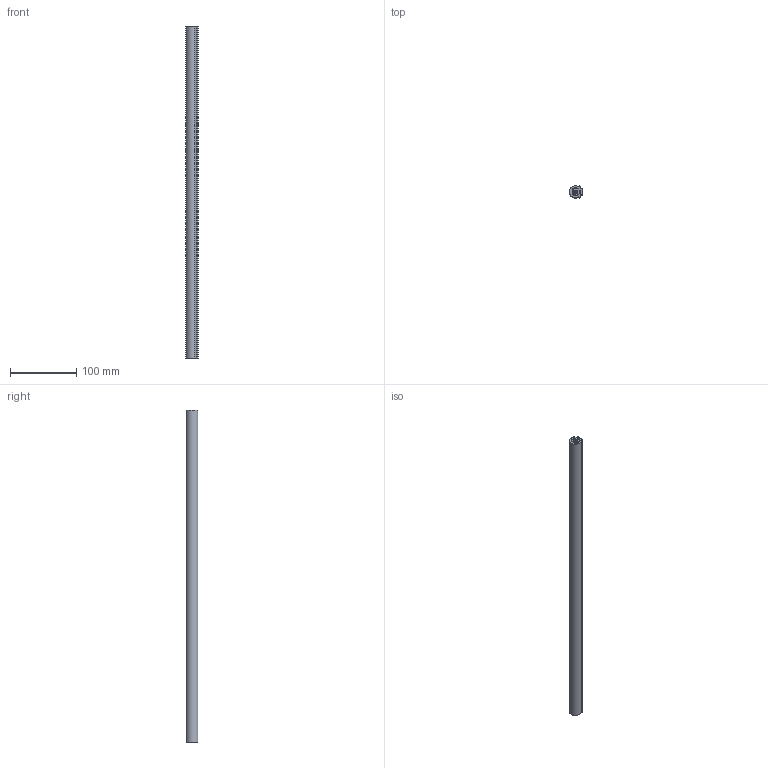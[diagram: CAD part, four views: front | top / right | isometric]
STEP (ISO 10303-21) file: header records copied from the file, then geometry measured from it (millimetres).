
FILE_DESCRIPTION((''),'2;1');
FILE_NAME('X:\Ritarkiv\STEP-Carryline Standarddelar\300-3010.stp','2009-05-11T13:37:01',('marcus'),(''),'Autodesk Inventor 2009','Autodesk Inventor 2009','');
FILE_SCHEMA(('AUTOMOTIVE_DESIGN { 1 0 10303 214 1 1 1 1 }'));
Length unit declared in the file: millimetre
Products named in the file (2): Assembly1; 300-3010-01
Assembly tree (1 placements, depth 2):
  Assembly1
    300-3010-01
Bounding box: 19.3 x 18 x 500 mm (x, y, z)
Volume: 117591.5 mm3; surface area: 88432.5 mm2
Topology: 1 solids, 1 shells, 68 faces, 198 edges, 118 vertices
Faces by surface type: plane 43, cylinder 25
Entity records: 2280 total; most frequent: ORIENTED_EDGE 396, DIRECTION 390, CARTESIAN_POINT 387, EDGE_CURVE 198, VECTOR 148, LINE 148, AXIS2_PLACEMENT_3D 121, VERTEX_POINT 118
